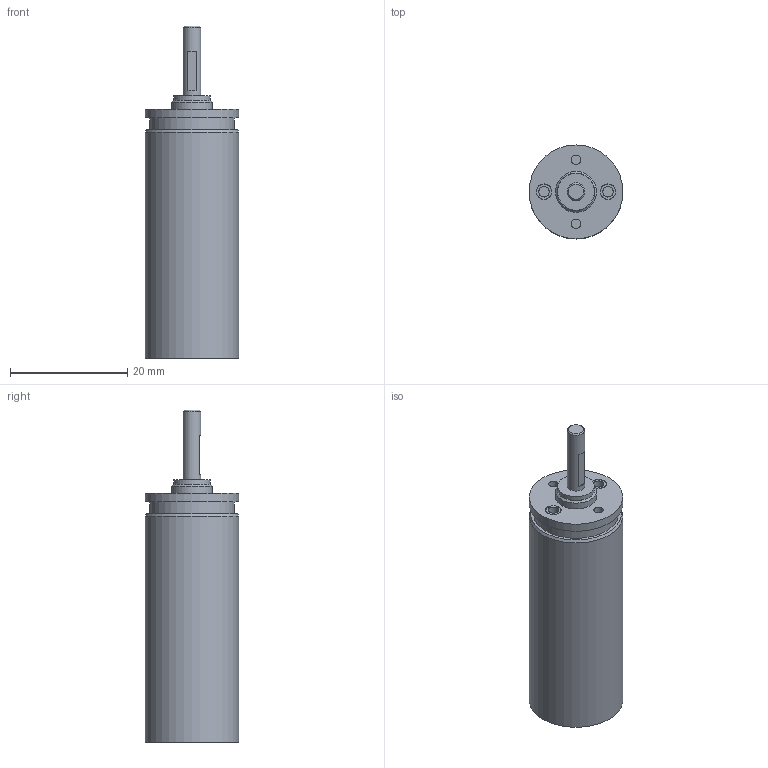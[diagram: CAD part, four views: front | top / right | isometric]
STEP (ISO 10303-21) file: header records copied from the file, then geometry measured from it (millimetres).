
FILE_DESCRIPTION(/* description */ (''),/* implementation_level */ '2;1');
FILE_NAME(/* name */ '15-5_9.stp',/* time_stamp */ '2016-08-24T14:27:51+02:00',/* author */ ('DR. FRITZ FAULHABER GmbH & Co. KG'),/* organization */ ('DR. FRITZ FAULHABER GmbH & Co. KG'),/* preprocessor_version */ 'ST-DEVELOPER v16',/* originating_system */ 'SIEMENS PLM Software NX 10.0',/* authorisation */ '');
FILE_SCHEMA (('AUTOMOTIVE_DESIGN { 1 0 10303 214 3 1 1 1 }'));
Length unit declared in the file: millimetre
Products named in the file (1): H00000515_A
Bounding box: 16 x 16 x 56.7 mm (x, y, z)
Volume: 6269.4 mm3; surface area: 3470.4 mm2
Topology: 1 solids, 1 shells, 41 faces, 64 edges, 42 vertices
Faces by surface type: plane 21, cylinder 17, cone 3
Full cylindrical faces by diameter (mm): 1.6 x2, 1.8 x2, 2.48 x1, 2.584 x2, 2.684 x2, 3 x1, 6 x1, 6.3 x1, 7 x1, 14.5 x1, 15 x1, 16 x2
Entity records: 856 total; most frequent: DIRECTION 166, CARTESIAN_POINT 126, ORIENTED_EDGE 86, AXIS2_PLACEMENT_3D 81, EDGE_LOOP 78, FACE_BOUND 69, EDGE_CURVE 43, ADVANCED_FACE 41
